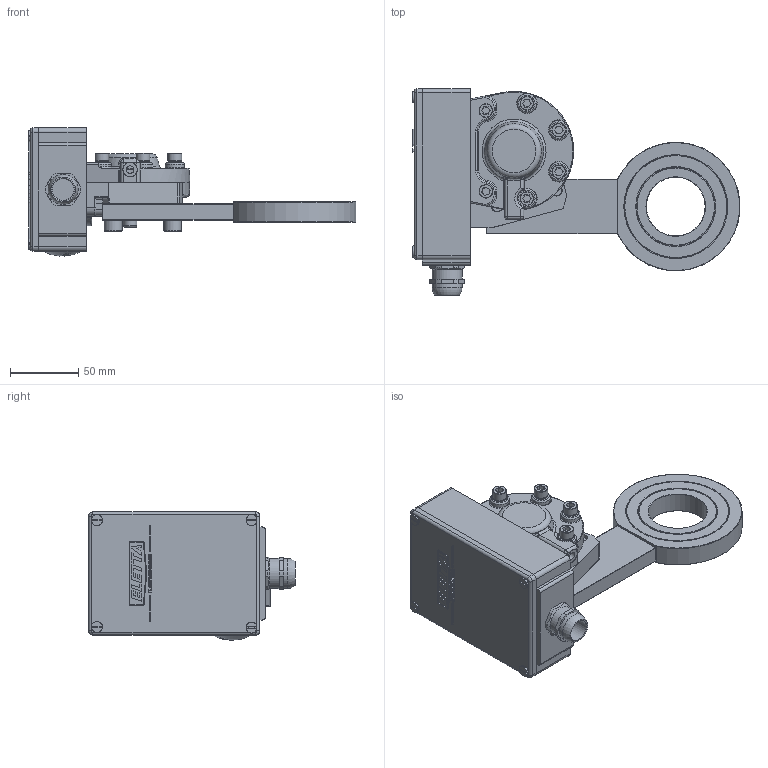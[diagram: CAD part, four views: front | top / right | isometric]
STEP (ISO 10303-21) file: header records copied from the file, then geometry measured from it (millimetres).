
FILE_DESCRIPTION(/* description */ ('Alibre Inc.'),/* implementation_level */ '2;1');
FILE_NAME(/* name */ 'export0',/* time_stamp */ '2012-10-19T13:16:49+02:00',/* author */ (''),/* organization */ (''),/* preprocessor_version */ 'ST-DEVELOPER v14',/* originating_system */ 'Alibre',/* authorisation */ '');
FILE_SCHEMA (('CONFIG_CONTROL_DESIGN'));
Length unit declared in the file: centimetre
Products named in the file (12): ID_1; ID_2; ID_3; ID_4; ID_5; ID_6; ID_7; ID_8; ID_9
Bounding box: 239.44 x 151 x 93.66 mm (x, y, z)
Volume: 392675.2 mm3; surface area: 169654.7 mm2
Topology: 21 solids, 21 shells, 1085 faces, 2568 edges, 1593 vertices
Faces by surface type: plane 538, cylinder 231, bspline 162, cone 76, torus 70, sphere 8
Full cylindrical faces by diameter (mm): 3.9 x2, 5 x22, 5.5 x1, 5.541 x2, 6 x14, 6.038 x2, 6.5 x6, 8 x9, 8.5 x2, 9.6 x6, 10 x11, 10.5 x1, 12 x3, 13 x2, 14 x3, 16 x1, 17.966 x1, 19.5 x1, 22 x2, 22.5 x4, 29 x1, 31 x1, 43 x1, 57 x2, 58 x2, 75 x2, 76 x2
Entity records: 34338 total; most frequent: CARTESIAN_POINT 14030, ORIENTED_EDGE 3988, DIRECTION 3168, EDGE_CURVE 1994, VERTEX_POINT 1333, AXIS2_PLACEMENT_3D 1279, EDGE_LOOP 1159, FACE_BOUND 1159
